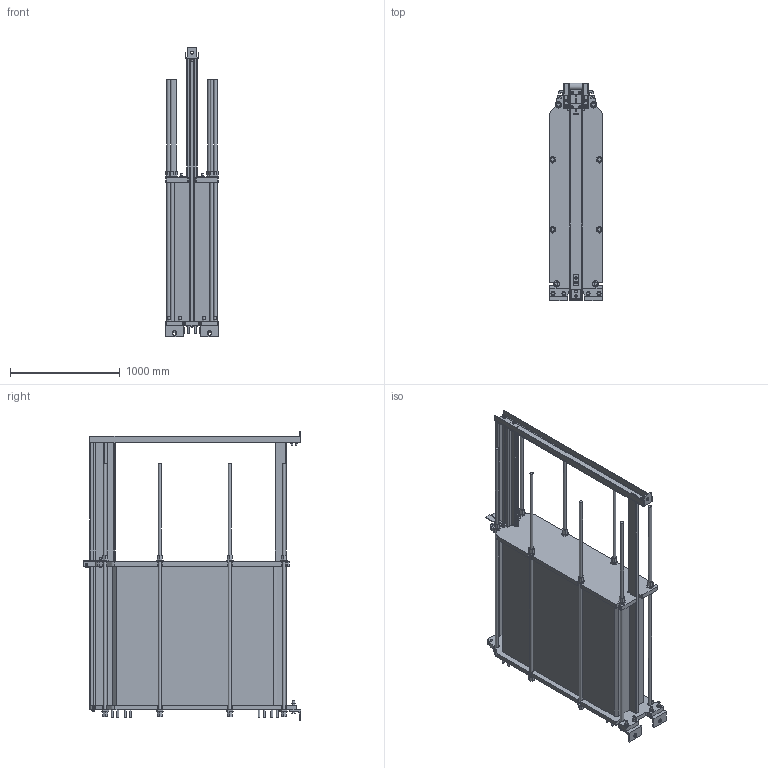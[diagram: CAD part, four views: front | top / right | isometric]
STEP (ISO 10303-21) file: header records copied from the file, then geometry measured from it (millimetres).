
FILE_DESCRIPTION((''),'2;1');
FILE_NAME('c:\temp\TL10_FG_LC2400_AL_01_REV0.stp','2009-06-24T12:25:25',('CNSHFLU'),(''),'Autodesk Inventor 2008','Autodesk Inventor 2008','');
FILE_SCHEMA(('AUTOMOTIVE_DESIGN { 1 0 10303 214 1 1 1 1 }'));
Length unit declared in the file: millimetre
Products named in the file (1): TL10
Bounding box: 483 x 1982.5 x 2645 mm (x, y, z)
Volume: 776489145.2 mm3; surface area: 15924717.7 mm2
Topology: 1 solids, 7 shells, 1443 faces, 3752 edges, 2484 vertices
Faces by surface type: plane 776, cylinder 356, bspline 309, cone 2
Full cylindrical faces by diameter (mm): 3.75 x4, 13 x8, 14 x6, 14.2 x2, 16 x34, 22 x9, 24 x12, 28 x1, 30 x8, 37 x4, 40 x2, 60 x1, 100 x4, 110 x4
Entity records: 43883 total; most frequent: CARTESIAN_POINT 8900, ORIENTED_EDGE 7202, DIRECTION 6685, EDGE_CURVE 3601, VECTOR 2787, LINE 2787, VERTEX_POINT 2466, AXIS2_PLACEMENT_3D 1949
